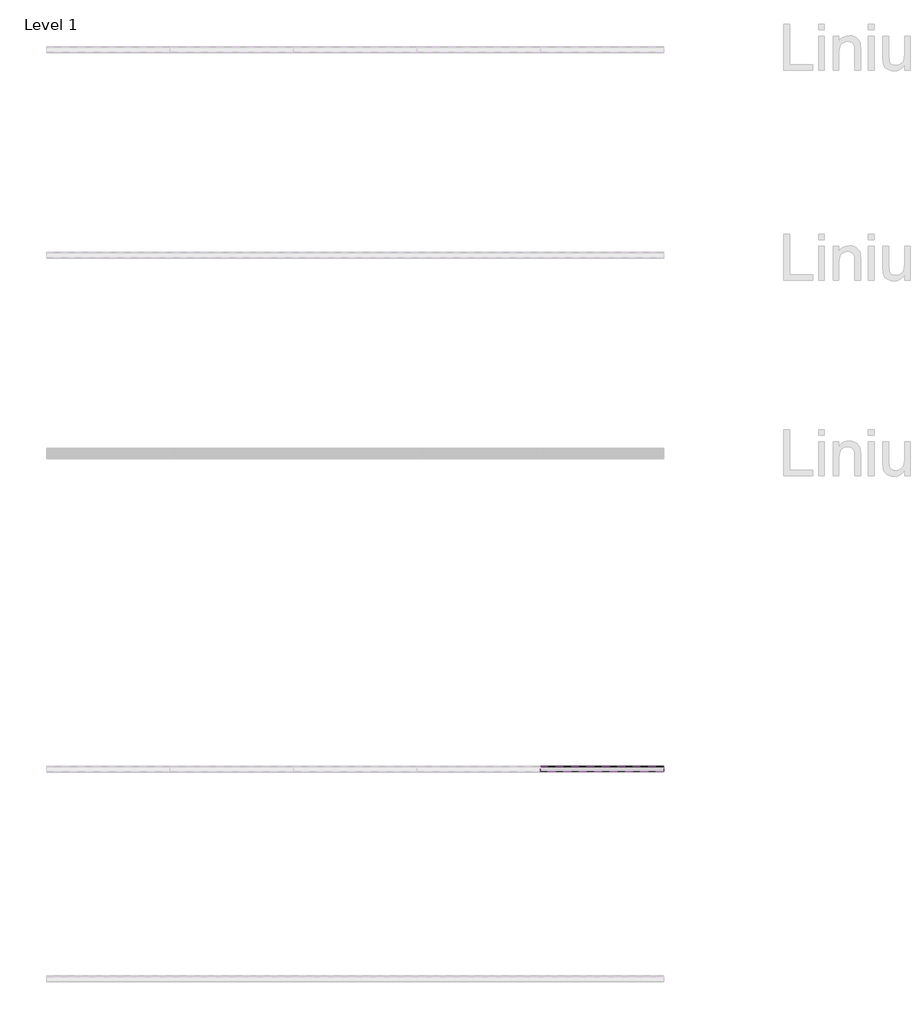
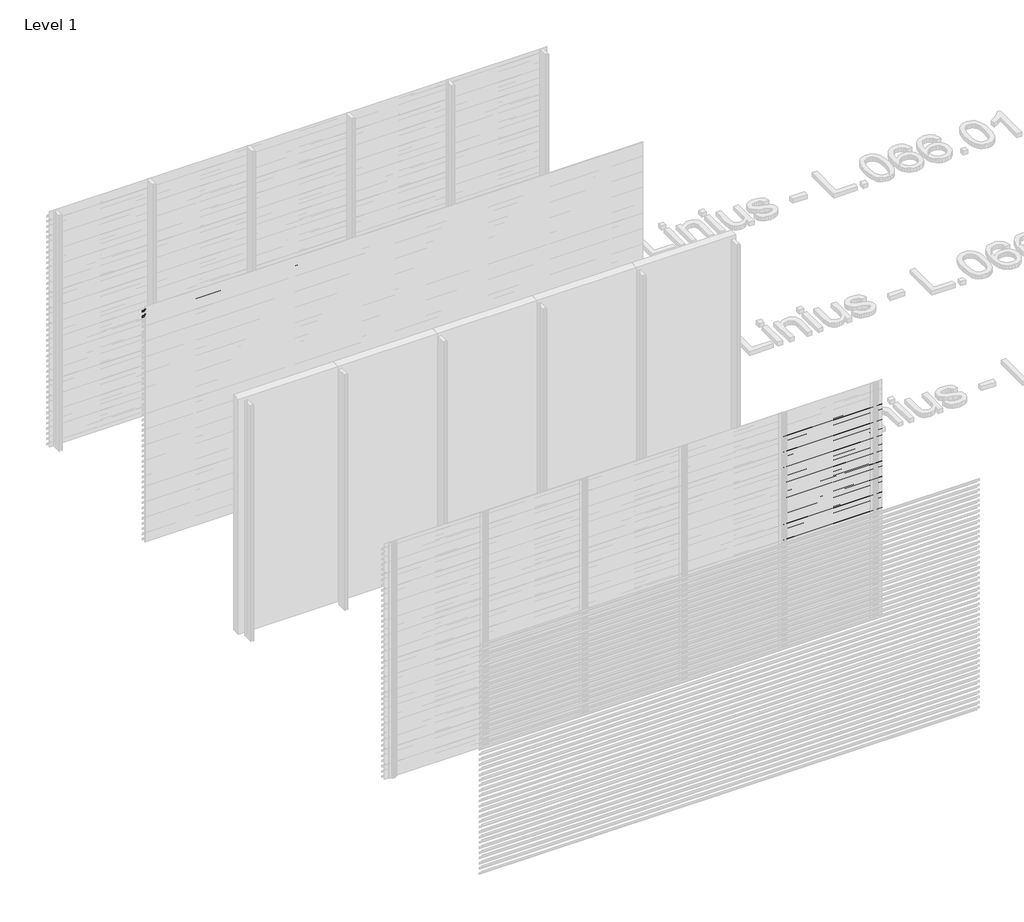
# One storey, part 24 of 540: 44 proxies.
"""IFC4 building model written with IfcOpenShell, lengths in millimetres."""

from ifc_helpers import new_model, si_unit, frame, origin, place, context, project, spatial, polyline, outline, extrude, faceted_brep, element, save

model = new_model("IFC4")

# Units and contexts
model_context = context("Model", 3, world=origin())
ifc_project = project(units=[si_unit("LENGTHUNIT", "METRE", prefix="MILLI")], contexts=[model_context])

# Site, building, storey
site = spatial("IfcSite", under=ifc_project)
building = spatial("IfcBuilding", under=site)
storey = spatial("IfcBuildingStorey", under=building, Name="Level 1", Elevation=0.0)

# Proxies
placement = place(None, origin())
element("IfcBuildingElementProxy", 1, Name="Wall Sweeps", at=placement, inside=storey, context=model_context, shape_type="SweptSolid", body=[
    extrude(outline(polyline([(12038.0540136, 2913.5), (12038.0540136, 2893.5), (12036.8040136, 2894.2216933), (12036.8040136, 2912.7872415), (11983.0540136, 2950.3158044), (11983.0540136, 2970.0), (11984.3040136, 2970.0), (11984.3040136, 2951.0285629), (12038.0540136, 2913.5)])), frame((466.6208097, 0.0, 0.0), z_axis=(1.0, 0.0, 0.0), x_axis=(0.0, 1.0, 0.0)), (0.0, 0.0, 1.0), 6000.0),
])
element("IfcBuildingElementProxy", 2, Name="Wall Sweeps", at=placement, inside=storey, context=model_context, shape_type="SweptSolid", body=[
    extrude(outline(polyline([(12038.0540136, 2847.5), (12038.0540136, 2827.5), (12036.8040136, 2828.2216933), (12036.8040136, 2846.7872415), (11983.0540136, 2884.3158044), (11983.0540136, 2904.0), (11984.3040136, 2904.0), (11984.3040136, 2885.0285629), (12038.0540136, 2847.5)])), frame((466.6208097, 0.0, 0.0), z_axis=(1.0, 0.0, 0.0), x_axis=(0.0, 1.0, 0.0)), (0.0, 0.0, 1.0), 6000.0),
])
element("IfcBuildingElementProxy", 3, Name="Wall Sweeps", at=placement, inside=storey, context=model_context, shape_type="Brep", body=[
    faceted_brep([(6466.6208097, 7042.0270068, 2715.5), (6466.6208097, 6988.2770068, 2753.0285629), (6466.6208097, 6988.2770068, 2772.0), (6466.6208097, 6987.0270068, 2772.0), (6466.6208097, 6987.0270068, 2752.3158044), (6466.6208097, 7040.7770068, 2714.7872415), (6466.6208097, 7040.7770068, 2696.2216933), (6466.6208097, 7042.0270068, 2695.5), (5266.6208097, 7042.0270068, 2715.5), (5266.6208097, 7042.0270068, 2695.5), (5266.6208097, 7040.7770068, 2696.2216933), (5266.6208097, 7040.7770068, 2714.7872415), (5266.6208097, 6987.0270068, 2752.3158044), (5266.6208097, 6987.0270068, 2772.0), (5266.6208097, 6988.2770068, 2772.0), (5266.6208097, 6988.2770068, 2753.0285629)], [[[0, 1, 2, 3, 4, 5, 6, 7]], [[8, 9, 10, 11, 12, 13, 14, 15]], [[1, 0, 8, 15]], [[2, 1, 15, 14]], [[4, 3, 13, 12]], [[6, 5, 11, 10]], [[7, 6, 10, 9]], [[0, 7, 9, 8]], [[3, 2, 14, 13]], [[5, 4, 12, 11]]]),
])
element("IfcBuildingElementProxy", 4, Name="Wall Sweeps", at=placement, inside=storey, context=model_context, shape_type="Brep", body=[
    faceted_brep([(6466.6208097, 7042.0270068, 2649.5), (6466.6208097, 6988.2770068, 2687.0285629), (6466.6208097, 6988.2770068, 2706.0), (6466.6208097, 6987.0270068, 2706.0), (6466.6208097, 6987.0270068, 2686.3158044), (6466.6208097, 7040.7770068, 2648.7872415), (6466.6208097, 7040.7770068, 2630.2216933), (6466.6208097, 7042.0270068, 2629.5), (5266.6208097, 7042.0270068, 2649.5), (5266.6208097, 7042.0270068, 2629.5), (5266.6208097, 7040.7770068, 2630.2216933), (5266.6208097, 7040.7770068, 2648.7872415), (5266.6208097, 6987.0270068, 2686.3158044), (5266.6208097, 6987.0270068, 2706.0), (5266.6208097, 6988.2770068, 2706.0), (5266.6208097, 6988.2770068, 2687.0285629)], [[[0, 1, 2, 3, 4, 5, 6, 7]], [[8, 9, 10, 11, 12, 13, 14, 15]], [[1, 0, 8, 15]], [[2, 1, 15, 14]], [[4, 3, 13, 12]], [[6, 5, 11, 10]], [[7, 6, 10, 9]], [[0, 7, 9, 8]], [[3, 2, 14, 13]], [[5, 4, 12, 11]]]),
])
element("IfcBuildingElementProxy", 5, Name="Wall Sweeps", at=placement, inside=storey, context=model_context, shape_type="Brep", body=[
    faceted_brep([(6466.6208097, 7042.0270068, 2583.5), (6466.6208097, 6988.2770068, 2621.0285629), (6466.6208097, 6988.2770068, 2640.0), (6466.6208097, 6987.0270068, 2640.0), (6466.6208097, 6987.0270068, 2620.3158044), (6466.6208097, 7040.7770068, 2582.7872415), (6466.6208097, 7040.7770068, 2564.2216933), (6466.6208097, 7042.0270068, 2563.5), (5266.6208097, 7042.0270068, 2583.5), (5266.6208097, 7042.0270068, 2563.5), (5266.6208097, 7040.7770068, 2564.2216933), (5266.6208097, 7040.7770068, 2582.7872415), (5266.6208097, 6987.0270068, 2620.3158044), (5266.6208097, 6987.0270068, 2640.0), (5266.6208097, 6988.2770068, 2640.0), (5266.6208097, 6988.2770068, 2621.0285629)], [[[0, 1, 2, 3, 4, 5, 6, 7]], [[8, 9, 10, 11, 12, 13, 14, 15]], [[1, 0, 8, 15]], [[2, 1, 15, 14]], [[4, 3, 13, 12]], [[6, 5, 11, 10]], [[7, 6, 10, 9]], [[0, 7, 9, 8]], [[3, 2, 14, 13]], [[5, 4, 12, 11]]]),
])
element("IfcBuildingElementProxy", 6, Name="Wall Sweeps", at=placement, inside=storey, context=model_context, shape_type="Brep", body=[
    faceted_brep([(6466.6208097, 7042.0270068, 2517.5), (6466.6208097, 6988.2770068, 2555.0285629), (6466.6208097, 6988.2770068, 2574.0), (6466.6208097, 6987.0270068, 2574.0), (6466.6208097, 6987.0270068, 2554.3158044), (6466.6208097, 7040.7770068, 2516.7872415), (6466.6208097, 7040.7770068, 2498.2216933), (6466.6208097, 7042.0270068, 2497.5), (5266.6208097, 7042.0270068, 2517.5), (5266.6208097, 7042.0270068, 2497.5), (5266.6208097, 7040.7770068, 2498.2216933), (5266.6208097, 7040.7770068, 2516.7872415), (5266.6208097, 6987.0270068, 2554.3158044), (5266.6208097, 6987.0270068, 2574.0), (5266.6208097, 6988.2770068, 2574.0), (5266.6208097, 6988.2770068, 2555.0285629)], [[[0, 1, 2, 3, 4, 5, 6, 7]], [[8, 9, 10, 11, 12, 13, 14, 15]], [[1, 0, 8, 15]], [[2, 1, 15, 14]], [[4, 3, 13, 12]], [[6, 5, 11, 10]], [[7, 6, 10, 9]], [[0, 7, 9, 8]], [[3, 2, 14, 13]], [[5, 4, 12, 11]]]),
])
element("IfcBuildingElementProxy", 7, Name="Wall Sweeps", at=placement, inside=storey, context=model_context, shape_type="Brep", body=[
    faceted_brep([(6466.6208097, 7042.0270068, 2451.5), (6466.6208097, 6988.2770068, 2489.0285629), (6466.6208097, 6988.2770068, 2508.0), (6466.6208097, 6987.0270068, 2508.0), (6466.6208097, 6987.0270068, 2488.3158044), (6466.6208097, 7040.7770068, 2450.7872415), (6466.6208097, 7040.7770068, 2432.2216933), (6466.6208097, 7042.0270068, 2431.5), (5266.6208097, 7042.0270068, 2451.5), (5266.6208097, 7042.0270068, 2431.5), (5266.6208097, 7040.7770068, 2432.2216933), (5266.6208097, 7040.7770068, 2450.7872415), (5266.6208097, 6987.0270068, 2488.3158044), (5266.6208097, 6987.0270068, 2508.0), (5266.6208097, 6988.2770068, 2508.0), (5266.6208097, 6988.2770068, 2489.0285629)], [[[0, 1, 2, 3, 4, 5, 6, 7]], [[8, 9, 10, 11, 12, 13, 14, 15]], [[1, 0, 8, 15]], [[2, 1, 15, 14]], [[4, 3, 13, 12]], [[6, 5, 11, 10]], [[7, 6, 10, 9]], [[0, 7, 9, 8]], [[3, 2, 14, 13]], [[5, 4, 12, 11]]]),
])
element("IfcBuildingElementProxy", 8, Name="Wall Sweeps", at=placement, inside=storey, context=model_context, shape_type="Brep", body=[
    faceted_brep([(6466.6208097, 7042.0270068, 2385.5), (6466.6208097, 6988.2770068, 2423.0285629), (6466.6208097, 6988.2770068, 2442.0), (6466.6208097, 6987.0270068, 2442.0), (6466.6208097, 6987.0270068, 2422.3158044), (6466.6208097, 7040.7770068, 2384.7872415), (6466.6208097, 7040.7770068, 2366.2216933), (6466.6208097, 7042.0270068, 2365.5), (5266.6208097, 7042.0270068, 2385.5), (5266.6208097, 7042.0270068, 2365.5), (5266.6208097, 7040.7770068, 2366.2216933), (5266.6208097, 7040.7770068, 2384.7872415), (5266.6208097, 6987.0270068, 2422.3158044), (5266.6208097, 6987.0270068, 2442.0), (5266.6208097, 6988.2770068, 2442.0), (5266.6208097, 6988.2770068, 2423.0285629)], [[[0, 1, 2, 3, 4, 5, 6, 7]], [[8, 9, 10, 11, 12, 13, 14, 15]], [[1, 0, 8, 15]], [[2, 1, 15, 14]], [[4, 3, 13, 12]], [[6, 5, 11, 10]], [[7, 6, 10, 9]], [[0, 7, 9, 8]], [[3, 2, 14, 13]], [[5, 4, 12, 11]]]),
])
element("IfcBuildingElementProxy", 9, Name="Wall Sweeps", at=placement, inside=storey, context=model_context, shape_type="Brep", body=[
    faceted_brep([(6466.6208097, 7042.0270068, 2319.5), (6466.6208097, 6988.2770068, 2357.0285629), (6466.6208097, 6988.2770068, 2376.0), (6466.6208097, 6987.0270068, 2376.0), (6466.6208097, 6987.0270068, 2356.3158044), (6466.6208097, 7040.7770068, 2318.7872415), (6466.6208097, 7040.7770068, 2300.2216933), (6466.6208097, 7042.0270068, 2299.5), (5266.6208097, 7042.0270068, 2319.5), (5266.6208097, 7042.0270068, 2299.5), (5266.6208097, 7040.7770068, 2300.2216933), (5266.6208097, 7040.7770068, 2318.7872415), (5266.6208097, 6987.0270068, 2356.3158044), (5266.6208097, 6987.0270068, 2376.0), (5266.6208097, 6988.2770068, 2376.0), (5266.6208097, 6988.2770068, 2357.0285629)], [[[0, 1, 2, 3, 4, 5, 6, 7]], [[8, 9, 10, 11, 12, 13, 14, 15]], [[1, 0, 8, 15]], [[2, 1, 15, 14]], [[4, 3, 13, 12]], [[6, 5, 11, 10]], [[7, 6, 10, 9]], [[0, 7, 9, 8]], [[3, 2, 14, 13]], [[5, 4, 12, 11]]]),
])
element("IfcBuildingElementProxy", 10, Name="Wall Sweeps", at=placement, inside=storey, context=model_context, shape_type="Brep", body=[
    faceted_brep([(6466.6208097, 7042.0270068, 2253.5), (6466.6208097, 6988.2770068, 2291.0285629), (6466.6208097, 6988.2770068, 2310.0), (6466.6208097, 6987.0270068, 2310.0), (6466.6208097, 6987.0270068, 2290.3158044), (6466.6208097, 7040.7770068, 2252.7872415), (6466.6208097, 7040.7770068, 2234.2216933), (6466.6208097, 7042.0270068, 2233.5), (5266.6208097, 7042.0270068, 2253.5), (5266.6208097, 7042.0270068, 2233.5), (5266.6208097, 7040.7770068, 2234.2216933), (5266.6208097, 7040.7770068, 2252.7872415), (5266.6208097, 6987.0270068, 2290.3158044), (5266.6208097, 6987.0270068, 2310.0), (5266.6208097, 6988.2770068, 2310.0), (5266.6208097, 6988.2770068, 2291.0285629)], [[[0, 1, 2, 3, 4, 5, 6, 7]], [[8, 9, 10, 11, 12, 13, 14, 15]], [[1, 0, 8, 15]], [[2, 1, 15, 14]], [[4, 3, 13, 12]], [[6, 5, 11, 10]], [[7, 6, 10, 9]], [[0, 7, 9, 8]], [[3, 2, 14, 13]], [[5, 4, 12, 11]]]),
])
element("IfcBuildingElementProxy", 11, Name="Wall Sweeps", at=placement, inside=storey, context=model_context, shape_type="Brep", body=[
    faceted_brep([(6466.6208097, 7042.0270068, 2187.5), (6466.6208097, 6988.2770068, 2225.0285629), (6466.6208097, 6988.2770068, 2244.0), (6466.6208097, 6987.0270068, 2244.0), (6466.6208097, 6987.0270068, 2224.3158044), (6466.6208097, 7040.7770068, 2186.7872415), (6466.6208097, 7040.7770068, 2168.2216933), (6466.6208097, 7042.0270068, 2167.5), (5266.6208097, 7042.0270068, 2187.5), (5266.6208097, 7042.0270068, 2167.5), (5266.6208097, 7040.7770068, 2168.2216933), (5266.6208097, 7040.7770068, 2186.7872415), (5266.6208097, 6987.0270068, 2224.3158044), (5266.6208097, 6987.0270068, 2244.0), (5266.6208097, 6988.2770068, 2244.0), (5266.6208097, 6988.2770068, 2225.0285629)], [[[0, 1, 2, 3, 4, 5, 6, 7]], [[8, 9, 10, 11, 12, 13, 14, 15]], [[1, 0, 8, 15]], [[2, 1, 15, 14]], [[4, 3, 13, 12]], [[6, 5, 11, 10]], [[7, 6, 10, 9]], [[0, 7, 9, 8]], [[3, 2, 14, 13]], [[5, 4, 12, 11]]]),
])
element("IfcBuildingElementProxy", 12, Name="Wall Sweeps", at=placement, inside=storey, context=model_context, shape_type="Brep", body=[
    faceted_brep([(6466.6208097, 7042.0270068, 2121.5), (6466.6208097, 6988.2770068, 2159.0285629), (6466.6208097, 6988.2770068, 2178.0), (6466.6208097, 6987.0270068, 2178.0), (6466.6208097, 6987.0270068, 2158.3158044), (6466.6208097, 7040.7770068, 2120.7872415), (6466.6208097, 7040.7770068, 2102.2216933), (6466.6208097, 7042.0270068, 2101.5), (5266.6208097, 7042.0270068, 2121.5), (5266.6208097, 7042.0270068, 2101.5), (5266.6208097, 7040.7770068, 2102.2216933), (5266.6208097, 7040.7770068, 2120.7872415), (5266.6208097, 6987.0270068, 2158.3158044), (5266.6208097, 6987.0270068, 2178.0), (5266.6208097, 6988.2770068, 2178.0), (5266.6208097, 6988.2770068, 2159.0285629)], [[[0, 1, 2, 3, 4, 5, 6, 7]], [[8, 9, 10, 11, 12, 13, 14, 15]], [[1, 0, 8, 15]], [[2, 1, 15, 14]], [[4, 3, 13, 12]], [[6, 5, 11, 10]], [[7, 6, 10, 9]], [[0, 7, 9, 8]], [[3, 2, 14, 13]], [[5, 4, 12, 11]]]),
])
element("IfcBuildingElementProxy", 13, Name="Wall Sweeps", at=placement, inside=storey, context=model_context, shape_type="Brep", body=[
    faceted_brep([(6466.6208097, 7042.0270068, 2055.5), (6466.6208097, 6988.2770068, 2093.0285629), (6466.6208097, 6988.2770068, 2112.0), (6466.6208097, 6987.0270068, 2112.0), (6466.6208097, 6987.0270068, 2092.3158044), (6466.6208097, 7040.7770068, 2054.7872415), (6466.6208097, 7040.7770068, 2036.2216933), (6466.6208097, 7042.0270068, 2035.5), (5266.6208097, 7042.0270068, 2055.5), (5266.6208097, 7042.0270068, 2035.5), (5266.6208097, 7040.7770068, 2036.2216933), (5266.6208097, 7040.7770068, 2054.7872415), (5266.6208097, 6987.0270068, 2092.3158044), (5266.6208097, 6987.0270068, 2112.0), (5266.6208097, 6988.2770068, 2112.0), (5266.6208097, 6988.2770068, 2093.0285629)], [[[0, 1, 2, 3, 4, 5, 6, 7]], [[8, 9, 10, 11, 12, 13, 14, 15]], [[1, 0, 8, 15]], [[2, 1, 15, 14]], [[4, 3, 13, 12]], [[6, 5, 11, 10]], [[7, 6, 10, 9]], [[0, 7, 9, 8]], [[3, 2, 14, 13]], [[5, 4, 12, 11]]]),
])
element("IfcBuildingElementProxy", 14, Name="Wall Sweeps", at=placement, inside=storey, context=model_context, shape_type="Brep", body=[
    faceted_brep([(6466.6208097, 7042.0270068, 1989.5), (6466.6208097, 6988.2770068, 2027.0285629), (6466.6208097, 6988.2770068, 2046.0), (6466.6208097, 6987.0270068, 2046.0), (6466.6208097, 6987.0270068, 2026.3158044), (6466.6208097, 7040.7770068, 1988.7872415), (6466.6208097, 7040.7770068, 1970.2216933), (6466.6208097, 7042.0270068, 1969.5), (5266.6208097, 7042.0270068, 1989.5), (5266.6208097, 7042.0270068, 1969.5), (5266.6208097, 7040.7770068, 1970.2216933), (5266.6208097, 7040.7770068, 1988.7872415), (5266.6208097, 6987.0270068, 2026.3158044), (5266.6208097, 6987.0270068, 2046.0), (5266.6208097, 6988.2770068, 2046.0), (5266.6208097, 6988.2770068, 2027.0285629)], [[[0, 1, 2, 3, 4, 5, 6, 7]], [[8, 9, 10, 11, 12, 13, 14, 15]], [[1, 0, 8, 15]], [[2, 1, 15, 14]], [[4, 3, 13, 12]], [[6, 5, 11, 10]], [[7, 6, 10, 9]], [[0, 7, 9, 8]], [[3, 2, 14, 13]], [[5, 4, 12, 11]]]),
])
element("IfcBuildingElementProxy", 15, Name="Wall Sweeps", at=placement, inside=storey, context=model_context, shape_type="Brep", body=[
    faceted_brep([(6466.6208097, 7042.0270068, 1923.5), (6466.6208097, 6988.2770068, 1961.0285629), (6466.6208097, 6988.2770068, 1980.0), (6466.6208097, 6987.0270068, 1980.0), (6466.6208097, 6987.0270068, 1960.3158044), (6466.6208097, 7040.7770068, 1922.7872415), (6466.6208097, 7040.7770068, 1904.2216933), (6466.6208097, 7042.0270068, 1903.5), (5266.6208097, 7042.0270068, 1923.5), (5266.6208097, 7042.0270068, 1903.5), (5266.6208097, 7040.7770068, 1904.2216933), (5266.6208097, 7040.7770068, 1922.7872415), (5266.6208097, 6987.0270068, 1960.3158044), (5266.6208097, 6987.0270068, 1980.0), (5266.6208097, 6988.2770068, 1980.0), (5266.6208097, 6988.2770068, 1961.0285629)], [[[0, 1, 2, 3, 4, 5, 6, 7]], [[8, 9, 10, 11, 12, 13, 14, 15]], [[1, 0, 8, 15]], [[2, 1, 15, 14]], [[4, 3, 13, 12]], [[6, 5, 11, 10]], [[7, 6, 10, 9]], [[0, 7, 9, 8]], [[3, 2, 14, 13]], [[5, 4, 12, 11]]]),
])
element("IfcBuildingElementProxy", 16, Name="Wall Sweeps", at=placement, inside=storey, context=model_context, shape_type="Brep", body=[
    faceted_brep([(6466.6208097, 7042.0270068, 1857.5), (6466.6208097, 6988.2770068, 1895.0285629), (6466.6208097, 6988.2770068, 1914.0), (6466.6208097, 6987.0270068, 1914.0), (6466.6208097, 6987.0270068, 1894.3158044), (6466.6208097, 7040.7770068, 1856.7872415), (6466.6208097, 7040.7770068, 1838.2216933), (6466.6208097, 7042.0270068, 1837.5), (5266.6208097, 7042.0270068, 1857.5), (5266.6208097, 7042.0270068, 1837.5), (5266.6208097, 7040.7770068, 1838.2216933), (5266.6208097, 7040.7770068, 1856.7872415), (5266.6208097, 6987.0270068, 1894.3158044), (5266.6208097, 6987.0270068, 1914.0), (5266.6208097, 6988.2770068, 1914.0), (5266.6208097, 6988.2770068, 1895.0285629)], [[[0, 1, 2, 3, 4, 5, 6, 7]], [[8, 9, 10, 11, 12, 13, 14, 15]], [[1, 0, 8, 15]], [[2, 1, 15, 14]], [[4, 3, 13, 12]], [[6, 5, 11, 10]], [[7, 6, 10, 9]], [[0, 7, 9, 8]], [[3, 2, 14, 13]], [[5, 4, 12, 11]]]),
])
element("IfcBuildingElementProxy", 17, Name="Wall Sweeps", at=placement, inside=storey, context=model_context, shape_type="Brep", body=[
    faceted_brep([(6466.6208097, 7042.0270068, 1791.5), (6466.6208097, 6988.2770068, 1829.0285629), (6466.6208097, 6988.2770068, 1848.0), (6466.6208097, 6987.0270068, 1848.0), (6466.6208097, 6987.0270068, 1828.3158044), (6466.6208097, 7040.7770068, 1790.7872415), (6466.6208097, 7040.7770068, 1772.2216933), (6466.6208097, 7042.0270068, 1771.5), (5266.6208097, 7042.0270068, 1791.5), (5266.6208097, 7042.0270068, 1771.5), (5266.6208097, 7040.7770068, 1772.2216933), (5266.6208097, 7040.7770068, 1790.7872415), (5266.6208097, 6987.0270068, 1828.3158044), (5266.6208097, 6987.0270068, 1848.0), (5266.6208097, 6988.2770068, 1848.0), (5266.6208097, 6988.2770068, 1829.0285629)], [[[0, 1, 2, 3, 4, 5, 6, 7]], [[8, 9, 10, 11, 12, 13, 14, 15]], [[1, 0, 8, 15]], [[2, 1, 15, 14]], [[4, 3, 13, 12]], [[6, 5, 11, 10]], [[7, 6, 10, 9]], [[0, 7, 9, 8]], [[3, 2, 14, 13]], [[5, 4, 12, 11]]]),
])
element("IfcBuildingElementProxy", 18, Name="Wall Sweeps", at=placement, inside=storey, context=model_context, shape_type="Brep", body=[
    faceted_brep([(6466.6208097, 7042.0270068, 1725.5), (6466.6208097, 6988.2770068, 1763.0285629), (6466.6208097, 6988.2770068, 1782.0), (6466.6208097, 6987.0270068, 1782.0), (6466.6208097, 6987.0270068, 1762.3158044), (6466.6208097, 7040.7770068, 1724.7872415), (6466.6208097, 7040.7770068, 1706.2216933), (6466.6208097, 7042.0270068, 1705.5), (5266.6208097, 7042.0270068, 1725.5), (5266.6208097, 7042.0270068, 1705.5), (5266.6208097, 7040.7770068, 1706.2216933), (5266.6208097, 7040.7770068, 1724.7872415), (5266.6208097, 6987.0270068, 1762.3158044), (5266.6208097, 6987.0270068, 1782.0), (5266.6208097, 6988.2770068, 1782.0), (5266.6208097, 6988.2770068, 1763.0285629)], [[[0, 1, 2, 3, 4, 5, 6, 7]], [[8, 9, 10, 11, 12, 13, 14, 15]], [[1, 0, 8, 15]], [[2, 1, 15, 14]], [[4, 3, 13, 12]], [[6, 5, 11, 10]], [[7, 6, 10, 9]], [[0, 7, 9, 8]], [[3, 2, 14, 13]], [[5, 4, 12, 11]]]),
])
element("IfcBuildingElementProxy", 19, Name="Wall Sweeps", at=placement, inside=storey, context=model_context, shape_type="Brep", body=[
    faceted_brep([(6466.6208097, 7042.0270068, 1659.5), (6466.6208097, 6988.2770068, 1697.0285629), (6466.6208097, 6988.2770068, 1716.0), (6466.6208097, 6987.0270068, 1716.0), (6466.6208097, 6987.0270068, 1696.3158044), (6466.6208097, 7040.7770068, 1658.7872415), (6466.6208097, 7040.7770068, 1640.2216933), (6466.6208097, 7042.0270068, 1639.5), (5266.6208097, 7042.0270068, 1659.5), (5266.6208097, 7042.0270068, 1639.5), (5266.6208097, 7040.7770068, 1640.2216933), (5266.6208097, 7040.7770068, 1658.7872415), (5266.6208097, 6987.0270068, 1696.3158044), (5266.6208097, 6987.0270068, 1716.0), (5266.6208097, 6988.2770068, 1716.0), (5266.6208097, 6988.2770068, 1697.0285629)], [[[0, 1, 2, 3, 4, 5, 6, 7]], [[8, 9, 10, 11, 12, 13, 14, 15]], [[1, 0, 8, 15]], [[2, 1, 15, 14]], [[4, 3, 13, 12]], [[6, 5, 11, 10]], [[7, 6, 10, 9]], [[0, 7, 9, 8]], [[3, 2, 14, 13]], [[5, 4, 12, 11]]]),
])
element("IfcBuildingElementProxy", 20, Name="Wall Sweeps", at=placement, inside=storey, context=model_context, shape_type="Brep", body=[
    faceted_brep([(6466.6208097, 7042.0270068, 1593.5), (6466.6208097, 6988.2770068, 1631.0285629), (6466.6208097, 6988.2770068, 1650.0), (6466.6208097, 6987.0270068, 1650.0), (6466.6208097, 6987.0270068, 1630.3158044), (6466.6208097, 7040.7770068, 1592.7872415), (6466.6208097, 7040.7770068, 1574.2216933), (6466.6208097, 7042.0270068, 1573.5), (5266.6208097, 7042.0270068, 1593.5), (5266.6208097, 7042.0270068, 1573.5), (5266.6208097, 7040.7770068, 1574.2216933), (5266.6208097, 7040.7770068, 1592.7872415), (5266.6208097, 6987.0270068, 1630.3158044), (5266.6208097, 6987.0270068, 1650.0), (5266.6208097, 6988.2770068, 1650.0), (5266.6208097, 6988.2770068, 1631.0285629)], [[[0, 1, 2, 3, 4, 5, 6, 7]], [[8, 9, 10, 11, 12, 13, 14, 15]], [[1, 0, 8, 15]], [[2, 1, 15, 14]], [[4, 3, 13, 12]], [[6, 5, 11, 10]], [[7, 6, 10, 9]], [[0, 7, 9, 8]], [[3, 2, 14, 13]], [[5, 4, 12, 11]]]),
])
element("IfcBuildingElementProxy", 21, Name="Wall Sweeps", at=placement, inside=storey, context=model_context, shape_type="Brep", body=[
    faceted_brep([(6466.6208097, 7042.0270068, 1527.5), (6466.6208097, 6988.2770068, 1565.0285629), (6466.6208097, 6988.2770068, 1584.0), (6466.6208097, 6987.0270068, 1584.0), (6466.6208097, 6987.0270068, 1564.3158044), (6466.6208097, 7040.7770068, 1526.7872415), (6466.6208097, 7040.7770068, 1508.2216933), (6466.6208097, 7042.0270068, 1507.5), (5266.6208097, 7042.0270068, 1527.5), (5266.6208097, 7042.0270068, 1507.5), (5266.6208097, 7040.7770068, 1508.2216933), (5266.6208097, 7040.7770068, 1526.7872415), (5266.6208097, 6987.0270068, 1564.3158044), (5266.6208097, 6987.0270068, 1584.0), (5266.6208097, 6988.2770068, 1584.0), (5266.6208097, 6988.2770068, 1565.0285629)], [[[0, 1, 2, 3, 4, 5, 6, 7]], [[8, 9, 10, 11, 12, 13, 14, 15]], [[1, 0, 8, 15]], [[2, 1, 15, 14]], [[4, 3, 13, 12]], [[6, 5, 11, 10]], [[7, 6, 10, 9]], [[0, 7, 9, 8]], [[3, 2, 14, 13]], [[5, 4, 12, 11]]]),
])
element("IfcBuildingElementProxy", 22, Name="Wall Sweeps", at=placement, inside=storey, context=model_context, shape_type="Brep", body=[
    faceted_brep([(6466.6208097, 7042.0270068, 1461.5), (6466.6208097, 6988.2770068, 1499.0285629), (6466.6208097, 6988.2770068, 1518.0), (6466.6208097, 6987.0270068, 1518.0), (6466.6208097, 6987.0270068, 1498.3158044), (6466.6208097, 7040.7770068, 1460.7872415), (6466.6208097, 7040.7770068, 1442.2216933), (6466.6208097, 7042.0270068, 1441.5), (5266.6208097, 7042.0270068, 1461.5), (5266.6208097, 7042.0270068, 1441.5), (5266.6208097, 7040.7770068, 1442.2216933), (5266.6208097, 7040.7770068, 1460.7872415), (5266.6208097, 6987.0270068, 1498.3158044), (5266.6208097, 6987.0270068, 1518.0), (5266.6208097, 6988.2770068, 1518.0), (5266.6208097, 6988.2770068, 1499.0285629)], [[[0, 1, 2, 3, 4, 5, 6, 7]], [[8, 9, 10, 11, 12, 13, 14, 15]], [[1, 0, 8, 15]], [[2, 1, 15, 14]], [[4, 3, 13, 12]], [[6, 5, 11, 10]], [[7, 6, 10, 9]], [[0, 7, 9, 8]], [[3, 2, 14, 13]], [[5, 4, 12, 11]]]),
])
element("IfcBuildingElementProxy", 23, Name="Wall Sweeps", at=placement, inside=storey, context=model_context, shape_type="Brep", body=[
    faceted_brep([(6466.6208097, 7042.0270068, 1395.5), (6466.6208097, 6988.2770068, 1433.0285629), (6466.6208097, 6988.2770068, 1452.0), (6466.6208097, 6987.0270068, 1452.0), (6466.6208097, 6987.0270068, 1432.3158044), (6466.6208097, 7040.7770068, 1394.7872415), (6466.6208097, 7040.7770068, 1376.2216933), (6466.6208097, 7042.0270068, 1375.5), (5266.6208097, 7042.0270068, 1395.5), (5266.6208097, 7042.0270068, 1375.5), (5266.6208097, 7040.7770068, 1376.2216933), (5266.6208097, 7040.7770068, 1394.7872415), (5266.6208097, 6987.0270068, 1432.3158044), (5266.6208097, 6987.0270068, 1452.0), (5266.6208097, 6988.2770068, 1452.0), (5266.6208097, 6988.2770068, 1433.0285629)], [[[0, 1, 2, 3, 4, 5, 6, 7]], [[8, 9, 10, 11, 12, 13, 14, 15]], [[1, 0, 8, 15]], [[2, 1, 15, 14]], [[4, 3, 13, 12]], [[6, 5, 11, 10]], [[7, 6, 10, 9]], [[0, 7, 9, 8]], [[3, 2, 14, 13]], [[5, 4, 12, 11]]]),
])
element("IfcBuildingElementProxy", 24, Name="Wall Sweeps", at=placement, inside=storey, context=model_context, shape_type="Brep", body=[
    faceted_brep([(6466.6208097, 7042.0270068, 1329.5), (6466.6208097, 6988.2770068, 1367.0285629), (6466.6208097, 6988.2770068, 1386.0), (6466.6208097, 6987.0270068, 1386.0), (6466.6208097, 6987.0270068, 1366.3158044), (6466.6208097, 7040.7770068, 1328.7872415), (6466.6208097, 7040.7770068, 1310.2216933), (6466.6208097, 7042.0270068, 1309.5), (5266.6208097, 7042.0270068, 1329.5), (5266.6208097, 7042.0270068, 1309.5), (5266.6208097, 7040.7770068, 1310.2216933), (5266.6208097, 7040.7770068, 1328.7872415), (5266.6208097, 6987.0270068, 1366.3158044), (5266.6208097, 6987.0270068, 1386.0), (5266.6208097, 6988.2770068, 1386.0), (5266.6208097, 6988.2770068, 1367.0285629)], [[[0, 1, 2, 3, 4, 5, 6, 7]], [[8, 9, 10, 11, 12, 13, 14, 15]], [[1, 0, 8, 15]], [[2, 1, 15, 14]], [[4, 3, 13, 12]], [[6, 5, 11, 10]], [[7, 6, 10, 9]], [[0, 7, 9, 8]], [[3, 2, 14, 13]], [[5, 4, 12, 11]]]),
])
element("IfcBuildingElementProxy", 25, Name="Wall Sweeps", at=placement, inside=storey, context=model_context, shape_type="Brep", body=[
    faceted_brep([(6466.6208097, 7042.0270068, 1263.5), (6466.6208097, 6988.2770068, 1301.0285629), (6466.6208097, 6988.2770068, 1320.0), (6466.6208097, 6987.0270068, 1320.0), (6466.6208097, 6987.0270068, 1300.3158044), (6466.6208097, 7040.7770068, 1262.7872415), (6466.6208097, 7040.7770068, 1244.2216933), (6466.6208097, 7042.0270068, 1243.5), (5266.6208097, 7042.0270068, 1263.5), (5266.6208097, 7042.0270068, 1243.5), (5266.6208097, 7040.7770068, 1244.2216933), (5266.6208097, 7040.7770068, 1262.7872415), (5266.6208097, 6987.0270068, 1300.3158044), (5266.6208097, 6987.0270068, 1320.0), (5266.6208097, 6988.2770068, 1320.0), (5266.6208097, 6988.2770068, 1301.0285629)], [[[0, 1, 2, 3, 4, 5, 6, 7]], [[8, 9, 10, 11, 12, 13, 14, 15]], [[1, 0, 8, 15]], [[2, 1, 15, 14]], [[4, 3, 13, 12]], [[6, 5, 11, 10]], [[7, 6, 10, 9]], [[0, 7, 9, 8]], [[3, 2, 14, 13]], [[5, 4, 12, 11]]]),
])
element("IfcBuildingElementProxy", 26, Name="Wall Sweeps", at=placement, inside=storey, context=model_context, shape_type="Brep", body=[
    faceted_brep([(6466.6208097, 7042.0270068, 1197.5), (6466.6208097, 6988.2770068, 1235.0285629), (6466.6208097, 6988.2770068, 1254.0), (6466.6208097, 6987.0270068, 1254.0), (6466.6208097, 6987.0270068, 1234.3158044), (6466.6208097, 7040.7770068, 1196.7872415), (6466.6208097, 7040.7770068, 1178.2216933), (6466.6208097, 7042.0270068, 1177.5), (5266.6208097, 7042.0270068, 1197.5), (5266.6208097, 7042.0270068, 1177.5), (5266.6208097, 7040.7770068, 1178.2216933), (5266.6208097, 7040.7770068, 1196.7872415), (5266.6208097, 6987.0270068, 1234.3158044), (5266.6208097, 6987.0270068, 1254.0), (5266.6208097, 6988.2770068, 1254.0), (5266.6208097, 6988.2770068, 1235.0285629)], [[[0, 1, 2, 3, 4, 5, 6, 7]], [[8, 9, 10, 11, 12, 13, 14, 15]], [[1, 0, 8, 15]], [[2, 1, 15, 14]], [[4, 3, 13, 12]], [[6, 5, 11, 10]], [[7, 6, 10, 9]], [[0, 7, 9, 8]], [[3, 2, 14, 13]], [[5, 4, 12, 11]]]),
])
element("IfcBuildingElementProxy", 27, Name="Wall Sweeps", at=placement, inside=storey, context=model_context, shape_type="Brep", body=[
    faceted_brep([(6466.6208097, 7042.0270068, 1131.5), (6466.6208097, 6988.2770068, 1169.0285629), (6466.6208097, 6988.2770068, 1188.0), (6466.6208097, 6987.0270068, 1188.0), (6466.6208097, 6987.0270068, 1168.3158044), (6466.6208097, 7040.7770068, 1130.7872415), (6466.6208097, 7040.7770068, 1112.2216933), (6466.6208097, 7042.0270068, 1111.5), (5266.6208097, 7042.0270068, 1131.5), (5266.6208097, 7042.0270068, 1111.5), (5266.6208097, 7040.7770068, 1112.2216933), (5266.6208097, 7040.7770068, 1130.7872415), (5266.6208097, 6987.0270068, 1168.3158044), (5266.6208097, 6987.0270068, 1188.0), (5266.6208097, 6988.2770068, 1188.0), (5266.6208097, 6988.2770068, 1169.0285629)], [[[0, 1, 2, 3, 4, 5, 6, 7]], [[8, 9, 10, 11, 12, 13, 14, 15]], [[1, 0, 8, 15]], [[2, 1, 15, 14]], [[4, 3, 13, 12]], [[6, 5, 11, 10]], [[7, 6, 10, 9]], [[0, 7, 9, 8]], [[3, 2, 14, 13]], [[5, 4, 12, 11]]]),
])
element("IfcBuildingElementProxy", 28, Name="Wall Sweeps", at=placement, inside=storey, context=model_context, shape_type="Brep", body=[
    faceted_brep([(6466.6208097, 7042.0270068, 1065.5), (6466.6208097, 6988.2770068, 1103.0285629), (6466.6208097, 6988.2770068, 1122.0), (6466.6208097, 6987.0270068, 1122.0), (6466.6208097, 6987.0270068, 1102.3158044), (6466.6208097, 7040.7770068, 1064.7872415), (6466.6208097, 7040.7770068, 1046.2216933), (6466.6208097, 7042.0270068, 1045.5), (5266.6208097, 7042.0270068, 1065.5), (5266.6208097, 7042.0270068, 1045.5), (5266.6208097, 7040.7770068, 1046.2216933), (5266.6208097, 7040.7770068, 1064.7872415), (5266.6208097, 6987.0270068, 1102.3158044), (5266.6208097, 6987.0270068, 1122.0), (5266.6208097, 6988.2770068, 1122.0), (5266.6208097, 6988.2770068, 1103.0285629)], [[[0, 1, 2, 3, 4, 5, 6, 7]], [[8, 9, 10, 11, 12, 13, 14, 15]], [[1, 0, 8, 15]], [[2, 1, 15, 14]], [[4, 3, 13, 12]], [[6, 5, 11, 10]], [[7, 6, 10, 9]], [[0, 7, 9, 8]], [[3, 2, 14, 13]], [[5, 4, 12, 11]]]),
])
element("IfcBuildingElementProxy", 29, Name="Wall Sweeps", at=placement, inside=storey, context=model_context, shape_type="Brep", body=[
    faceted_brep([(6466.6208097, 7042.0270068, 999.5), (6466.6208097, 6988.2770068, 1037.0285629), (6466.6208097, 6988.2770068, 1056.0), (6466.6208097, 6987.0270068, 1056.0), (6466.6208097, 6987.0270068, 1036.3158044), (6466.6208097, 7040.7770068, 998.7872415), (6466.6208097, 7040.7770068, 980.2216933), (6466.6208097, 7042.0270068, 979.5), (5266.6208097, 7042.0270068, 999.5), (5266.6208097, 7042.0270068, 979.5), (5266.6208097, 7040.7770068, 980.2216933), (5266.6208097, 7040.7770068, 998.7872415), (5266.6208097, 6987.0270068, 1036.3158044), (5266.6208097, 6987.0270068, 1056.0), (5266.6208097, 6988.2770068, 1056.0), (5266.6208097, 6988.2770068, 1037.0285629)], [[[0, 1, 2, 3, 4, 5, 6, 7]], [[8, 9, 10, 11, 12, 13, 14, 15]], [[1, 0, 8, 15]], [[2, 1, 15, 14]], [[4, 3, 13, 12]], [[6, 5, 11, 10]], [[7, 6, 10, 9]], [[0, 7, 9, 8]], [[3, 2, 14, 13]], [[5, 4, 12, 11]]]),
])
element("IfcBuildingElementProxy", 30, Name="Wall Sweeps", at=placement, inside=storey, context=model_context, shape_type="Brep", body=[
    faceted_brep([(6466.6208097, 7042.0270068, 933.5), (6466.6208097, 6988.2770068, 971.0285629), (6466.6208097, 6988.2770068, 990.0), (6466.6208097, 6987.0270068, 990.0), (6466.6208097, 6987.0270068, 970.3158044), (6466.6208097, 7040.7770068, 932.7872415), (6466.6208097, 7040.7770068, 914.2216933), (6466.6208097, 7042.0270068, 913.5), (5266.6208097, 7042.0270068, 933.5), (5266.6208097, 7042.0270068, 913.5), (5266.6208097, 7040.7770068, 914.2216933), (5266.6208097, 7040.7770068, 932.7872415), (5266.6208097, 6987.0270068, 970.3158044), (5266.6208097, 6987.0270068, 990.0), (5266.6208097, 6988.2770068, 990.0), (5266.6208097, 6988.2770068, 971.0285629)], [[[0, 1, 2, 3, 4, 5, 6, 7]], [[8, 9, 10, 11, 12, 13, 14, 15]], [[1, 0, 8, 15]], [[2, 1, 15, 14]], [[4, 3, 13, 12]], [[6, 5, 11, 10]], [[7, 6, 10, 9]], [[0, 7, 9, 8]], [[3, 2, 14, 13]], [[5, 4, 12, 11]]]),
])
element("IfcBuildingElementProxy", 31, Name="Wall Sweeps", at=placement, inside=storey, context=model_context, shape_type="Brep", body=[
    faceted_brep([(6466.6208097, 7042.0270068, 867.5), (6466.6208097, 6988.2770068, 905.0285629), (6466.6208097, 6988.2770068, 924.0), (6466.6208097, 6987.0270068, 924.0), (6466.6208097, 6987.0270068, 904.3158044), (6466.6208097, 7040.7770068, 866.7872415), (6466.6208097, 7040.7770068, 848.2216933), (6466.6208097, 7042.0270068, 847.5), (5266.6208097, 7042.0270068, 867.5), (5266.6208097, 7042.0270068, 847.5), (5266.6208097, 7040.7770068, 848.2216933), (5266.6208097, 7040.7770068, 866.7872415), (5266.6208097, 6987.0270068, 904.3158044), (5266.6208097, 6987.0270068, 924.0), (5266.6208097, 6988.2770068, 924.0), (5266.6208097, 6988.2770068, 905.0285629)], [[[0, 1, 2, 3, 4, 5, 6, 7]], [[8, 9, 10, 11, 12, 13, 14, 15]], [[1, 0, 8, 15]], [[2, 1, 15, 14]], [[4, 3, 13, 12]], [[6, 5, 11, 10]], [[7, 6, 10, 9]], [[0, 7, 9, 8]], [[3, 2, 14, 13]], [[5, 4, 12, 11]]]),
])
element("IfcBuildingElementProxy", 32, Name="Wall Sweeps", at=placement, inside=storey, context=model_context, shape_type="Brep", body=[
    faceted_brep([(6466.6208097, 7042.0270068, 801.5), (6466.6208097, 6988.2770068, 839.0285629), (6466.6208097, 6988.2770068, 858.0), (6466.6208097, 6987.0270068, 858.0), (6466.6208097, 6987.0270068, 838.3158044), (6466.6208097, 7040.7770068, 800.7872415), (6466.6208097, 7040.7770068, 782.2216933), (6466.6208097, 7042.0270068, 781.5), (5266.6208097, 7042.0270068, 801.5), (5266.6208097, 7042.0270068, 781.5), (5266.6208097, 7040.7770068, 782.2216933), (5266.6208097, 7040.7770068, 800.7872415), (5266.6208097, 6987.0270068, 838.3158044), (5266.6208097, 6987.0270068, 858.0), (5266.6208097, 6988.2770068, 858.0), (5266.6208097, 6988.2770068, 839.0285629)], [[[0, 1, 2, 3, 4, 5, 6, 7]], [[8, 9, 10, 11, 12, 13, 14, 15]], [[1, 0, 8, 15]], [[2, 1, 15, 14]], [[4, 3, 13, 12]], [[6, 5, 11, 10]], [[7, 6, 10, 9]], [[0, 7, 9, 8]], [[3, 2, 14, 13]], [[5, 4, 12, 11]]]),
])
element("IfcBuildingElementProxy", 33, Name="Wall Sweeps", at=placement, inside=storey, context=model_context, shape_type="Brep", body=[
    faceted_brep([(6466.6208097, 7042.0270068, 735.5), (6466.6208097, 6988.2770068, 773.0285629), (6466.6208097, 6988.2770068, 792.0), (6466.6208097, 6987.0270068, 792.0), (6466.6208097, 6987.0270068, 772.3158044), (6466.6208097, 7040.7770068, 734.7872415), (6466.6208097, 7040.7770068, 716.2216933), (6466.6208097, 7042.0270068, 715.5), (5266.6208097, 7042.0270068, 735.5), (5266.6208097, 7042.0270068, 715.5), (5266.6208097, 7040.7770068, 716.2216933), (5266.6208097, 7040.7770068, 734.7872415), (5266.6208097, 6987.0270068, 772.3158044), (5266.6208097, 6987.0270068, 792.0), (5266.6208097, 6988.2770068, 792.0), (5266.6208097, 6988.2770068, 773.0285629)], [[[0, 1, 2, 3, 4, 5, 6, 7]], [[8, 9, 10, 11, 12, 13, 14, 15]], [[1, 0, 8, 15]], [[2, 1, 15, 14]], [[4, 3, 13, 12]], [[6, 5, 11, 10]], [[7, 6, 10, 9]], [[0, 7, 9, 8]], [[3, 2, 14, 13]], [[5, 4, 12, 11]]]),
])
element("IfcBuildingElementProxy", 34, Name="Wall Sweeps", at=placement, inside=storey, context=model_context, shape_type="Brep", body=[
    faceted_brep([(6466.6208097, 7042.0270068, 669.5), (6466.6208097, 6988.2770068, 707.0285629), (6466.6208097, 6988.2770068, 726.0), (6466.6208097, 6987.0270068, 726.0), (6466.6208097, 6987.0270068, 706.3158044), (6466.6208097, 7040.7770068, 668.7872415), (6466.6208097, 7040.7770068, 650.2216933), (6466.6208097, 7042.0270068, 649.5), (5266.6208097, 7042.0270068, 669.5), (5266.6208097, 7042.0270068, 649.5), (5266.6208097, 7040.7770068, 650.2216933), (5266.6208097, 7040.7770068, 668.7872415), (5266.6208097, 6987.0270068, 706.3158044), (5266.6208097, 6987.0270068, 726.0), (5266.6208097, 6988.2770068, 726.0), (5266.6208097, 6988.2770068, 707.0285629)], [[[0, 1, 2, 3, 4, 5, 6, 7]], [[8, 9, 10, 11, 12, 13, 14, 15]], [[1, 0, 8, 15]], [[2, 1, 15, 14]], [[4, 3, 13, 12]], [[6, 5, 11, 10]], [[7, 6, 10, 9]], [[0, 7, 9, 8]], [[3, 2, 14, 13]], [[5, 4, 12, 11]]]),
])
element("IfcBuildingElementProxy", 35, Name="Wall Sweeps", at=placement, inside=storey, context=model_context, shape_type="Brep", body=[
    faceted_brep([(6466.6208097, 7042.0270068, 603.5), (6466.6208097, 6988.2770068, 641.0285629), (6466.6208097, 6988.2770068, 660.0), (6466.6208097, 6987.0270068, 660.0), (6466.6208097, 6987.0270068, 640.3158044), (6466.6208097, 7040.7770068, 602.7872415), (6466.6208097, 7040.7770068, 584.2216933), (6466.6208097, 7042.0270068, 583.5), (5266.6208097, 7042.0270068, 603.5), (5266.6208097, 7042.0270068, 583.5), (5266.6208097, 7040.7770068, 584.2216933), (5266.6208097, 7040.7770068, 602.7872415), (5266.6208097, 6987.0270068, 640.3158044), (5266.6208097, 6987.0270068, 660.0), (5266.6208097, 6988.2770068, 660.0), (5266.6208097, 6988.2770068, 641.0285629)], [[[0, 1, 2, 3, 4, 5, 6, 7]], [[8, 9, 10, 11, 12, 13, 14, 15]], [[1, 0, 8, 15]], [[2, 1, 15, 14]], [[4, 3, 13, 12]], [[6, 5, 11, 10]], [[7, 6, 10, 9]], [[0, 7, 9, 8]], [[3, 2, 14, 13]], [[5, 4, 12, 11]]]),
])
element("IfcBuildingElementProxy", 36, Name="Wall Sweeps", at=placement, inside=storey, context=model_context, shape_type="Brep", body=[
    faceted_brep([(6466.6208097, 7042.0270068, 537.5), (6466.6208097, 6988.2770068, 575.0285629), (6466.6208097, 6988.2770068, 594.0), (6466.6208097, 6987.0270068, 594.0), (6466.6208097, 6987.0270068, 574.3158044), (6466.6208097, 7040.7770068, 536.7872415), (6466.6208097, 7040.7770068, 518.2216933), (6466.6208097, 7042.0270068, 517.5), (5266.6208097, 7042.0270068, 537.5), (5266.6208097, 7042.0270068, 517.5), (5266.6208097, 7040.7770068, 518.2216933), (5266.6208097, 7040.7770068, 536.7872415), (5266.6208097, 6987.0270068, 574.3158044), (5266.6208097, 6987.0270068, 594.0), (5266.6208097, 6988.2770068, 594.0), (5266.6208097, 6988.2770068, 575.0285629)], [[[0, 1, 2, 3, 4, 5, 6, 7]], [[8, 9, 10, 11, 12, 13, 14, 15]], [[1, 0, 8, 15]], [[2, 1, 15, 14]], [[4, 3, 13, 12]], [[6, 5, 11, 10]], [[7, 6, 10, 9]], [[0, 7, 9, 8]], [[3, 2, 14, 13]], [[5, 4, 12, 11]]]),
])
element("IfcBuildingElementProxy", 37, Name="Wall Sweeps", at=placement, inside=storey, context=model_context, shape_type="Brep", body=[
    faceted_brep([(6466.6208097, 7042.0270068, 471.5), (6466.6208097, 6988.2770068, 509.0285629), (6466.6208097, 6988.2770068, 528.0), (6466.6208097, 6987.0270068, 528.0), (6466.6208097, 6987.0270068, 508.3158044), (6466.6208097, 7040.7770068, 470.7872415), (6466.6208097, 7040.7770068, 452.2216933), (6466.6208097, 7042.0270068, 451.5), (5266.6208097, 7042.0270068, 471.5), (5266.6208097, 7042.0270068, 451.5), (5266.6208097, 7040.7770068, 452.2216933), (5266.6208097, 7040.7770068, 470.7872415), (5266.6208097, 6987.0270068, 508.3158044), (5266.6208097, 6987.0270068, 528.0), (5266.6208097, 6988.2770068, 528.0), (5266.6208097, 6988.2770068, 509.0285629)], [[[0, 1, 2, 3, 4, 5, 6, 7]], [[8, 9, 10, 11, 12, 13, 14, 15]], [[1, 0, 8, 15]], [[2, 1, 15, 14]], [[4, 3, 13, 12]], [[6, 5, 11, 10]], [[7, 6, 10, 9]], [[0, 7, 9, 8]], [[3, 2, 14, 13]], [[5, 4, 12, 11]]]),
])
element("IfcBuildingElementProxy", 38, Name="Wall Sweeps", at=placement, inside=storey, context=model_context, shape_type="Brep", body=[
    faceted_brep([(6466.6208097, 7042.0270068, 405.5), (6466.6208097, 6988.2770068, 443.0285629), (6466.6208097, 6988.2770068, 462.0), (6466.6208097, 6987.0270068, 462.0), (6466.6208097, 6987.0270068, 442.3158044), (6466.6208097, 7040.7770068, 404.7872415), (6466.6208097, 7040.7770068, 386.2216933), (6466.6208097, 7042.0270068, 385.5), (5266.6208097, 7042.0270068, 405.5), (5266.6208097, 7042.0270068, 385.5), (5266.6208097, 7040.7770068, 386.2216933), (5266.6208097, 7040.7770068, 404.7872415), (5266.6208097, 6987.0270068, 442.3158044), (5266.6208097, 6987.0270068, 462.0), (5266.6208097, 6988.2770068, 462.0), (5266.6208097, 6988.2770068, 443.0285629)], [[[0, 1, 2, 3, 4, 5, 6, 7]], [[8, 9, 10, 11, 12, 13, 14, 15]], [[1, 0, 8, 15]], [[2, 1, 15, 14]], [[4, 3, 13, 12]], [[6, 5, 11, 10]], [[7, 6, 10, 9]], [[0, 7, 9, 8]], [[3, 2, 14, 13]], [[5, 4, 12, 11]]]),
])
element("IfcBuildingElementProxy", 39, Name="Wall Sweeps", at=placement, inside=storey, context=model_context, shape_type="Brep", body=[
    faceted_brep([(6466.6208097, 7042.0270068, 339.5), (6466.6208097, 6988.2770068, 377.0285629), (6466.6208097, 6988.2770068, 396.0), (6466.6208097, 6987.0270068, 396.0), (6466.6208097, 6987.0270068, 376.3158044), (6466.6208097, 7040.7770068, 338.7872415), (6466.6208097, 7040.7770068, 320.2216933), (6466.6208097, 7042.0270068, 319.5), (5266.6208097, 7042.0270068, 339.5), (5266.6208097, 7042.0270068, 319.5), (5266.6208097, 7040.7770068, 320.2216933), (5266.6208097, 7040.7770068, 338.7872415), (5266.6208097, 6987.0270068, 376.3158044), (5266.6208097, 6987.0270068, 396.0), (5266.6208097, 6988.2770068, 396.0), (5266.6208097, 6988.2770068, 377.0285629)], [[[0, 1, 2, 3, 4, 5, 6, 7]], [[8, 9, 10, 11, 12, 13, 14, 15]], [[1, 0, 8, 15]], [[2, 1, 15, 14]], [[4, 3, 13, 12]], [[6, 5, 11, 10]], [[7, 6, 10, 9]], [[0, 7, 9, 8]], [[3, 2, 14, 13]], [[5, 4, 12, 11]]]),
])
element("IfcBuildingElementProxy", 40, Name="Wall Sweeps", at=placement, inside=storey, context=model_context, shape_type="Brep", body=[
    faceted_brep([(6466.6208097, 7042.0270068, 273.5), (6466.6208097, 6988.2770068, 311.0285629), (6466.6208097, 6988.2770068, 330.0), (6466.6208097, 6987.0270068, 330.0), (6466.6208097, 6987.0270068, 310.3158044), (6466.6208097, 7040.7770068, 272.7872415), (6466.6208097, 7040.7770068, 254.2216933), (6466.6208097, 7042.0270068, 253.5), (5266.6208097, 7042.0270068, 273.5), (5266.6208097, 7042.0270068, 253.5), (5266.6208097, 7040.7770068, 254.2216933), (5266.6208097, 7040.7770068, 272.7872415), (5266.6208097, 6987.0270068, 310.3158044), (5266.6208097, 6987.0270068, 330.0), (5266.6208097, 6988.2770068, 330.0), (5266.6208097, 6988.2770068, 311.0285629)], [[[0, 1, 2, 3, 4, 5, 6, 7]], [[8, 9, 10, 11, 12, 13, 14, 15]], [[1, 0, 8, 15]], [[2, 1, 15, 14]], [[4, 3, 13, 12]], [[6, 5, 11, 10]], [[7, 6, 10, 9]], [[0, 7, 9, 8]], [[3, 2, 14, 13]], [[5, 4, 12, 11]]]),
])
element("IfcBuildingElementProxy", 41, Name="Wall Sweeps", at=placement, inside=storey, context=model_context, shape_type="Brep", body=[
    faceted_brep([(6466.6208097, 7042.0270068, 207.5), (6466.6208097, 6988.2770068, 245.0285629), (6466.6208097, 6988.2770068, 264.0), (6466.6208097, 6987.0270068, 264.0), (6466.6208097, 6987.0270068, 244.3158044), (6466.6208097, 7040.7770068, 206.7872415), (6466.6208097, 7040.7770068, 188.2216933), (6466.6208097, 7042.0270068, 187.5), (5266.6208097, 7042.0270068, 207.5), (5266.6208097, 7042.0270068, 187.5), (5266.6208097, 7040.7770068, 188.2216933), (5266.6208097, 7040.7770068, 206.7872415), (5266.6208097, 6987.0270068, 244.3158044), (5266.6208097, 6987.0270068, 264.0), (5266.6208097, 6988.2770068, 264.0), (5266.6208097, 6988.2770068, 245.0285629)], [[[0, 1, 2, 3, 4, 5, 6, 7]], [[8, 9, 10, 11, 12, 13, 14, 15]], [[1, 0, 8, 15]], [[2, 1, 15, 14]], [[4, 3, 13, 12]], [[6, 5, 11, 10]], [[7, 6, 10, 9]], [[0, 7, 9, 8]], [[3, 2, 14, 13]], [[5, 4, 12, 11]]]),
])
element("IfcBuildingElementProxy", 42, Name="Wall Sweeps", at=placement, inside=storey, context=model_context, shape_type="Brep", body=[
    faceted_brep([(6466.6208097, 7042.0270068, 141.5), (6466.6208097, 6988.2770068, 179.0285629), (6466.6208097, 6988.2770068, 198.0), (6466.6208097, 6987.0270068, 198.0), (6466.6208097, 6987.0270068, 178.3158044), (6466.6208097, 7040.7770068, 140.7872415), (6466.6208097, 7040.7770068, 122.2216933), (6466.6208097, 7042.0270068, 121.5), (5266.6208097, 7042.0270068, 141.5), (5266.6208097, 7042.0270068, 121.5), (5266.6208097, 7040.7770068, 122.2216933), (5266.6208097, 7040.7770068, 140.7872415), (5266.6208097, 6987.0270068, 178.3158044), (5266.6208097, 6987.0270068, 198.0), (5266.6208097, 6988.2770068, 198.0), (5266.6208097, 6988.2770068, 179.0285629)], [[[0, 1, 2, 3, 4, 5, 6, 7]], [[8, 9, 10, 11, 12, 13, 14, 15]], [[1, 0, 8, 15]], [[2, 1, 15, 14]], [[4, 3, 13, 12]], [[6, 5, 11, 10]], [[7, 6, 10, 9]], [[0, 7, 9, 8]], [[3, 2, 14, 13]], [[5, 4, 12, 11]]]),
])
element("IfcBuildingElementProxy", 43, Name="Wall Sweeps", at=placement, inside=storey, context=model_context, shape_type="Brep", body=[
    faceted_brep([(6466.6208097, 7042.0270068, 75.5), (6466.6208097, 6988.2770068, 113.0285629), (6466.6208097, 6988.2770068, 132.0), (6466.6208097, 6987.0270068, 132.0), (6466.6208097, 6987.0270068, 112.3158044), (6466.6208097, 7040.7770068, 74.7872415), (6466.6208097, 7040.7770068, 56.2216933), (6466.6208097, 7042.0270068, 55.5), (5266.6208097, 7042.0270068, 75.5), (5266.6208097, 7042.0270068, 55.5), (5266.6208097, 7040.7770068, 56.2216933), (5266.6208097, 7040.7770068, 74.7872415), (5266.6208097, 6987.0270068, 112.3158044), (5266.6208097, 6987.0270068, 132.0), (5266.6208097, 6988.2770068, 132.0), (5266.6208097, 6988.2770068, 113.0285629)], [[[0, 1, 2, 3, 4, 5, 6, 7]], [[8, 9, 10, 11, 12, 13, 14, 15]], [[1, 0, 8, 15]], [[2, 1, 15, 14]], [[4, 3, 13, 12]], [[6, 5, 11, 10]], [[7, 6, 10, 9]], [[0, 7, 9, 8]], [[3, 2, 14, 13]], [[5, 4, 12, 11]]]),
])
element("IfcBuildingElementProxy", 44, Name="Wall Sweeps", at=placement, inside=storey, context=model_context, shape_type="Brep", body=[
    faceted_brep([(6466.6208097, 7042.0270068, 9.5), (6466.6208097, 6988.2770068, 47.0285629), (6466.6208097, 6988.2770068, 66.0), (6466.6208097, 6987.0270068, 66.0), (6466.6208097, 6987.0270068, 46.3158044), (6466.6208097, 7040.7770068, 8.7872415), (6466.6208097, 7040.7770068, -9.7783067), (6466.6208097, 7042.0270068, -10.5), (5266.6208097, 7042.0270068, 9.5), (5266.6208097, 7042.0270068, -10.5), (5266.6208097, 7040.7770068, -9.7783067), (5266.6208097, 7040.7770068, 8.7872415), (5266.6208097, 6987.0270068, 46.3158044), (5266.6208097, 6987.0270068, 66.0), (5266.6208097, 6988.2770068, 66.0), (5266.6208097, 6988.2770068, 47.0285629)], [[[0, 1, 2, 3, 4, 5, 6, 7]], [[8, 9, 10, 11, 12, 13, 14, 15]], [[1, 0, 8, 15]], [[2, 1, 15, 14]], [[4, 3, 13, 12]], [[6, 5, 11, 10]], [[7, 6, 10, 9]], [[0, 7, 9, 8]], [[3, 2, 14, 13]], [[5, 4, 12, 11]]]),
])

save(model, "model.ifc")
